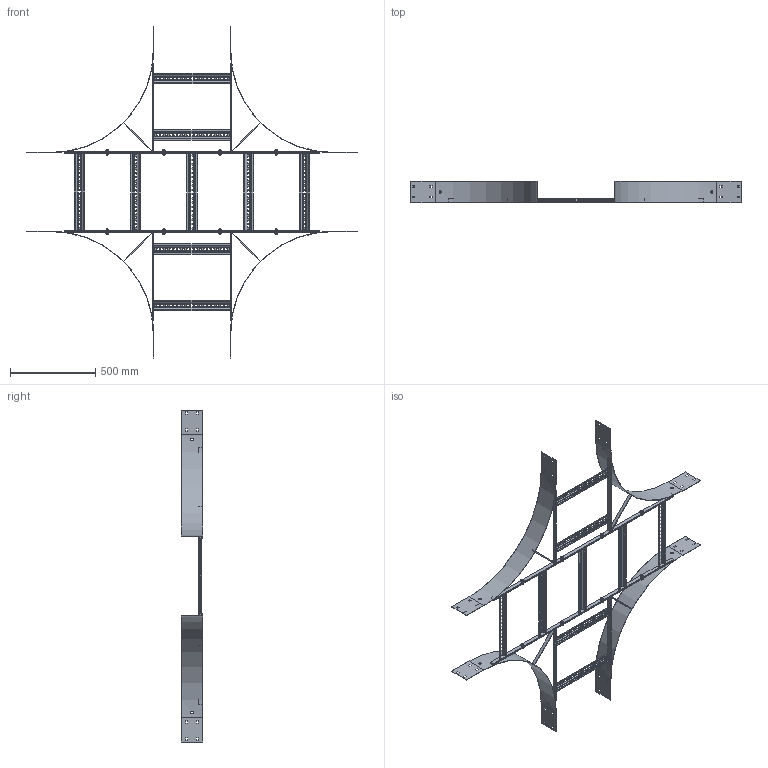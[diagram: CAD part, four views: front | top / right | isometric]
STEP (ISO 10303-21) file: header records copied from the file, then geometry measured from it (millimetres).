
FILE_DESCRIPTION (( 'STEP AP203' ), '1' );
FILE_NAME ('N3 C 4506.STEP', '2024-08-27T04:45:51', ( '' ), ( '' ), 'SwSTEP 2.0', 'SolidWorks 2023', '' );
FILE_SCHEMA (( 'CONFIG_CONTROL_DESIGN' ));
Length unit declared in the file: millimetre
Products named in the file (14): Ladder Rung_Ladder Rung -  450mm; N3 RADIUS PLATE_N1-600 IR; Ladder Tee 20x5 Flat Bar_1495; Fascia bolt - M10x25_Fascia bolt; Fascia Kit M10x25_4th position; Ladder Tee 20x5 Flat Bar_240; N3C4506 horizontal_N3 C; CNH M10 Collar Nut_CNH M10 collar nut HDG; Ladder Tee 20x5 Flat Bar_518; N3 C 4506; Washers_M10 washer; N3C4506 vertical with sides_N3 C
Assembly tree (30 placements, depth 3):
  N3 C 4506
    N3C4506 vertical with sides_N3 C  x2
      Ladder Tee 20x5 Flat Bar_1495
      N3 RADIUS PLATE_N1-600 IR
      Ladder Rung_Ladder Rung -  450mm
      Ladder Tee 20x5 Flat Bar_518
      Ladder Tee 20x5 Flat Bar_240
    N3C4506 horizontal_N3 C
      Ladder Rung_Ladder Rung -  450mm  x5
      Ladder Tee 20x5 Flat Bar_1495
      Ladder Tee 20x5 Flat Bar_1495
    Fascia Kit M10x25_4th position  x8
      Fascia bolt - M10x25_Fascia bolt
      Washers_M10 washer
      CNH M10 Collar Nut_CNH M10 collar nut HDG
Bounding box: 1935 x 124 x 1945 mm (x, y, z)
Volume: 2568574.2 mm3; surface area: 2279565.9 mm2
Topology: 49 solids, 49 shells, 2818 faces, 7464 edges, 4776 vertices
Faces by surface type: plane 2338, cylinder 176, cone 112, bspline 112, torus 64, sphere 16
Entity records: 16623 total; most frequent: CARTESIAN_POINT 4024, ORIENTED_EDGE 2250, DIRECTION 2077, EDGE_CURVE 1125, VECTOR 873, LINE 873, VERTEX_POINT 725, AXIS2_PLACEMENT_3D 602
